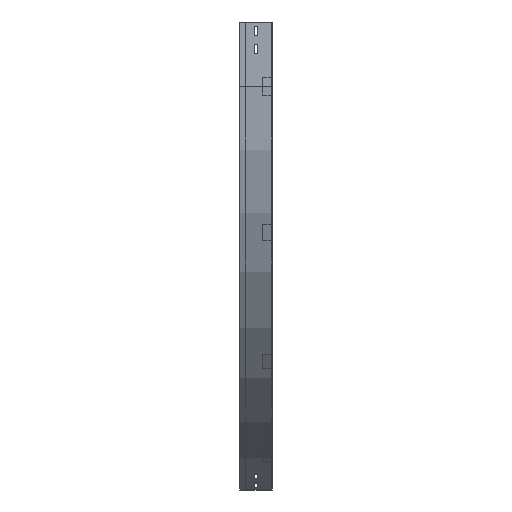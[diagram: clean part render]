
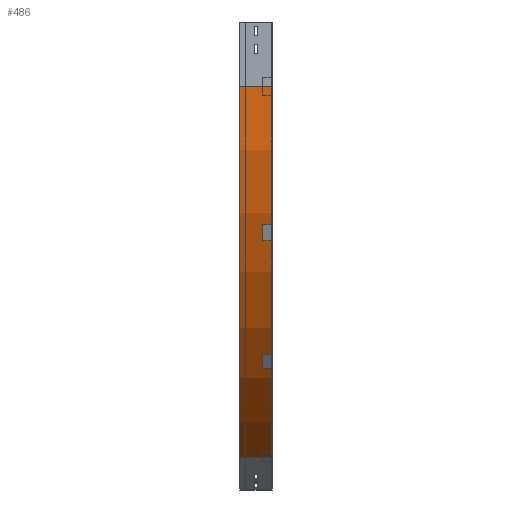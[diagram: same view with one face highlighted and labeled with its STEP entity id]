
A CAD part, left-side view. The second image highlights one B-rep face of the part: STEP entity #486.
In plain terms, the highlighted cylindrical face has radius 1000 mm (diameter 2000 mm), a partial arc.
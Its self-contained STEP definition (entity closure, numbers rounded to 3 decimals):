
#213 = CYLINDRICAL_SURFACE ( 'NONE', #1352, 1000. ) ;
#285 = AXIS2_PLACEMENT_3D ( 'NONE', #2083, #2161, #1300 ) ;
#321 = CARTESIAN_POINT ( 'NONE',  ( 0., 0., -150. ) ) ;
#344 = EDGE_LOOP ( 'NONE', ( #1957, #3332, #1035, #3417 ) ) ;
#486 = ADVANCED_FACE ( 'NONE', ( #2609 ), #213, .T. ) ;
#711 = CARTESIAN_POINT ( 'NONE',  ( 500., 0., -1016.025 ) ) ;
#739 = DIRECTION ( 'NONE',  ( -1., 0., 0. ) ) ;
#800 = CIRCLE ( 'NONE', #2601, 1000. ) ;
#1035 = ORIENTED_EDGE ( 'NONE', *, *, #1093, .T. ) ;
#1093 = EDGE_CURVE ( 'NONE', #1587, #1818, #800, .T. ) ;
#1107 = VECTOR ( 'NONE', #3076, 1000. ) ;
#1109 = DIRECTION ( 'NONE',  ( 0., -1., 0. ) ) ;
#1130 = EDGE_CURVE ( 'NONE', #1587, #2232, #3652, .T. ) ;
#1300 = DIRECTION ( 'NONE',  ( -1., 0., 0. ) ) ;
#1317 = CARTESIAN_POINT ( 'NONE',  ( 500., 0., -1016.025 ) ) ;
#1352 = AXIS2_PLACEMENT_3D ( 'NONE', #3788, #1109, #2301 ) ;
#1472 = EDGE_CURVE ( 'NONE', #2232, #3424, #1705, .T. ) ;
#1587 = VERTEX_POINT ( 'NONE', #2799 ) ;
#1629 = CARTESIAN_POINT ( 'NONE',  ( 1000., 75., -150. ) ) ;
#1705 = CIRCLE ( 'NONE', #285, 1000. ) ;
#1717 = CARTESIAN_POINT ( 'NONE',  ( 500., 75., -1016.025 ) ) ;
#1818 = VERTEX_POINT ( 'NONE', #1717 ) ;
#1881 = LINE ( 'NONE', #711, #3820 ) ;
#1957 = ORIENTED_EDGE ( 'NONE', *, *, #1472, .F. ) ;
#2083 = CARTESIAN_POINT ( 'NONE',  ( 1000., 0., -150. ) ) ;
#2161 = DIRECTION ( 'NONE',  ( 0., -1., 0. ) ) ;
#2232 = VERTEX_POINT ( 'NONE', #321 ) ;
#2301 = DIRECTION ( 'NONE',  ( 0., 0., -1. ) ) ;
#2506 = CARTESIAN_POINT ( 'NONE',  ( 0., 0., -150. ) ) ;
#2601 = AXIS2_PLACEMENT_3D ( 'NONE', #1629, #2780, #739 ) ;
#2609 = FACE_OUTER_BOUND ( 'NONE', #344, .T. ) ;
#2773 = DIRECTION ( 'NONE',  ( 0., -1., 0. ) ) ;
#2780 = DIRECTION ( 'NONE',  ( 0., -1., 0. ) ) ;
#2799 = CARTESIAN_POINT ( 'NONE',  ( 0., 75., -150. ) ) ;
#3076 = DIRECTION ( 'NONE',  ( 0., -1., 0. ) ) ;
#3332 = ORIENTED_EDGE ( 'NONE', *, *, #1130, .F. ) ;
#3417 = ORIENTED_EDGE ( 'NONE', *, *, #3447, .T. ) ;
#3424 = VERTEX_POINT ( 'NONE', #1317 ) ;
#3447 = EDGE_CURVE ( 'NONE', #1818, #3424, #1881, .T. ) ;
#3652 = LINE ( 'NONE', #2506, #1107 ) ;
#3788 = CARTESIAN_POINT ( 'NONE',  ( 1000., 0., -150. ) ) ;
#3820 = VECTOR ( 'NONE', #2773, 1000. ) ;
